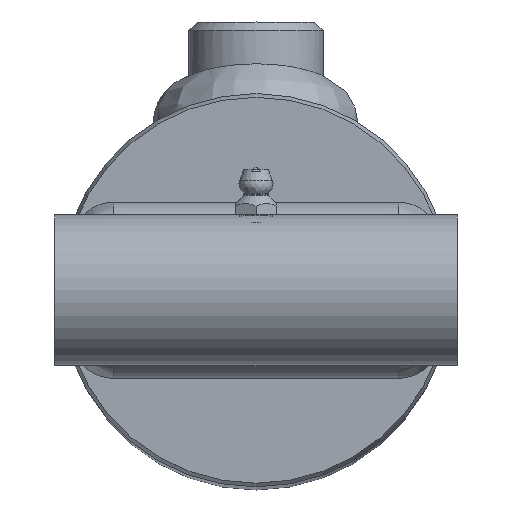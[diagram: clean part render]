
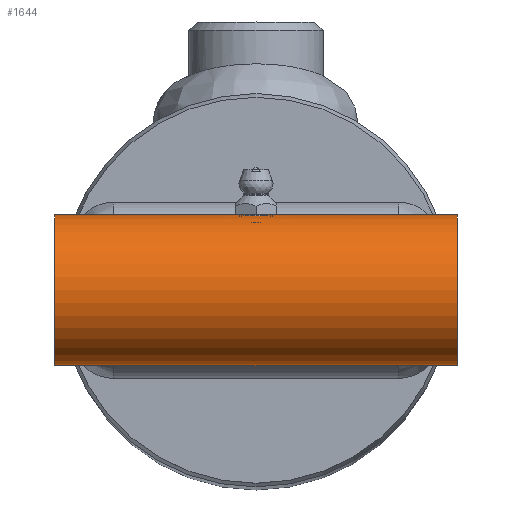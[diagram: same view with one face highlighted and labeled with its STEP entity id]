
A CAD part, top view. The second image highlights one B-rep face of the part: STEP entity #1644.
In plain terms, the highlighted cylindrical face has radius 14.287 mm (diameter 28.575 mm), a full revolution.
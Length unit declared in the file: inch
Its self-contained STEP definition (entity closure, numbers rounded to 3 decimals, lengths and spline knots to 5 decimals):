
#1479=CARTESIAN_POINT('',(-0.1065,0.5625,0.));
#1480=VERTEX_POINT('',#1479);
#1481=CARTESIAN_POINT('',(0.1065,0.5625,0.));
#1482=VERTEX_POINT('',#1481);
#1483=CARTESIAN_POINT('',(-0.1065,0.5625,0.));
#1484=CARTESIAN_POINT('',(-0.1065,0.5625,-0.01341));
#1485=CARTESIAN_POINT('',(-0.10381,0.56197,-0.02769));
#1486=CARTESIAN_POINT('',(-0.09294,0.56006,-0.05392));
#1487=CARTESIAN_POINT('',(-0.08474,0.55871,-0.06587));
#1488=CARTESIAN_POINT('',(-0.06587,0.55616,-0.08474));
#1489=CARTESIAN_POINT('',(-0.05392,0.5548,-0.09294));
#1490=CARTESIAN_POINT('',(-0.02769,0.55286,-0.10381));
#1491=CARTESIAN_POINT('',(-0.01341,0.55233,-0.1065));
#1492=CARTESIAN_POINT('',(0.01341,0.55233,-0.1065));
#1493=CARTESIAN_POINT('',(0.02769,0.55286,-0.10381));
#1494=CARTESIAN_POINT('',(0.05392,0.5548,-0.09294));
#1495=CARTESIAN_POINT('',(0.06587,0.55616,-0.08474));
#1496=CARTESIAN_POINT('',(0.08474,0.55871,-0.06587));
#1497=CARTESIAN_POINT('',(0.09294,0.56006,-0.05392));
#1498=CARTESIAN_POINT('',(0.10381,0.56197,-0.02769));
#1499=CARTESIAN_POINT('',(0.1065,0.5625,-0.01341));
#1500=CARTESIAN_POINT('',(0.1065,0.5625,0.));
#1501=B_SPLINE_CURVE_WITH_KNOTS('',3,(#1483,#1484,#1485,#1486,#1487,#1488,#1489,#1490,#1491,#1492,#1493,#1494,#1495,#1496,#1497,#1498,#1499,#1500),.UNSPECIFIED.,.F.,.U.,(4,2,2,2,2,2,2,2,4),(0.40865,0.51081,0.61297,0.71514,0.81731,0.91947,1.02164,1.1238,1.22596),.UNSPECIFIED.);
#1502=EDGE_CURVE('',#1480,#1482,#1501,.T.);
#1504=CARTESIAN_POINT('',(0.1065,0.5625,0.));
#1505=CARTESIAN_POINT('',(0.1065,0.5625,0.01341));
#1506=CARTESIAN_POINT('',(0.10381,0.56197,0.02769));
#1507=CARTESIAN_POINT('',(0.09294,0.56006,0.05392));
#1508=CARTESIAN_POINT('',(0.08474,0.55871,0.06587));
#1509=CARTESIAN_POINT('',(0.06587,0.55616,0.08474));
#1510=CARTESIAN_POINT('',(0.05392,0.5548,0.09294));
#1511=CARTESIAN_POINT('',(0.02769,0.55286,0.10381));
#1512=CARTESIAN_POINT('',(0.01341,0.55233,0.1065));
#1513=CARTESIAN_POINT('',(0.0,0.55233,0.1065));
#1514=CARTESIAN_POINT('',(-0.01341,0.55233,0.1065));
#1515=CARTESIAN_POINT('',(-0.02769,0.55286,0.10381));
#1516=CARTESIAN_POINT('',(-0.05392,0.5548,0.09294));
#1517=CARTESIAN_POINT('',(-0.06587,0.55616,0.08474));
#1518=CARTESIAN_POINT('',(-0.08474,0.55871,0.06587));
#1519=CARTESIAN_POINT('',(-0.09294,0.56006,0.05392));
#1520=CARTESIAN_POINT('',(-0.10381,0.56197,0.02769));
#1521=CARTESIAN_POINT('',(-0.1065,0.5625,0.01341));
#1522=CARTESIAN_POINT('',(-0.1065,0.5625,0.));
#1523=B_SPLINE_CURVE_WITH_KNOTS('',3,(#1504,#1505,#1506,#1507,#1508,#1509,#1510,#1511,#1512,#1513,#1514,#1515,#1516,#1517,#1518,#1519,#1520,#1521,#1522),.UNSPECIFIED.,.F.,.U.,(4,2,2,2,3,2,2,2,4),(1.22596,1.32812,1.43028,1.53244,1.63461,1.73678,1.83894,1.9411,2.04326),.UNSPECIFIED.);
#1524=EDGE_CURVE('',#1482,#1480,#1523,.T.);
#1606=CARTESIAN_POINT('',(-1.5,0.5625,0.));
#1607=VERTEX_POINT('',#1606);
#1608=CARTESIAN_POINT('',(-1.5,0.0,0.0));
#1609=DIRECTION('',(1.0,0.0,0.0));
#1610=DIRECTION('',(0.0,-1.0,0.0));
#1611=AXIS2_PLACEMENT_3D('',#1608,#1609,#1610);
#1612=CIRCLE('',#1611,0.5625);
#1613=EDGE_CURVE('',#1607,#1607,#1612,.T.);
#1621=CARTESIAN_POINT('',(0.0,0.0,0.0));
#1622=DIRECTION('',(1.0,0.0,0.0));
#1623=DIRECTION('',(0.0,-1.0,0.0));
#1624=AXIS2_PLACEMENT_3D('',#1621,#1622,#1623);
#1625=CYLINDRICAL_SURFACE('',#1624,0.5625);
#1626=ORIENTED_EDGE('',*,*,#1613,.T.);
#1627=EDGE_LOOP('',(#1626));
#1628=FACE_OUTER_BOUND('',#1627,.T.);
#1629=ORIENTED_EDGE('',*,*,#1502,.T.);
#1630=ORIENTED_EDGE('',*,*,#1524,.T.);
#1631=EDGE_LOOP('',(#1629,#1630));
#1632=FACE_BOUND('',#1631,.T.);
#1633=CARTESIAN_POINT('',(1.5,0.5625,0.));
#1634=VERTEX_POINT('',#1633);
#1635=CARTESIAN_POINT('',(1.5,0.0,0.0));
#1636=DIRECTION('',(-1.0,0.0,0.0));
#1637=DIRECTION('',(0.0,-1.0,0.0));
#1638=AXIS2_PLACEMENT_3D('',#1635,#1636,#1637);
#1639=CIRCLE('',#1638,0.5625);
#1640=EDGE_CURVE('',#1634,#1634,#1639,.T.);
#1641=ORIENTED_EDGE('',*,*,#1640,.T.);
#1642=EDGE_LOOP('',(#1641));
#1643=FACE_BOUND('',#1642,.T.);
#1644=ADVANCED_FACE('',(#1628,#1632,#1643),#1625,.T.);
